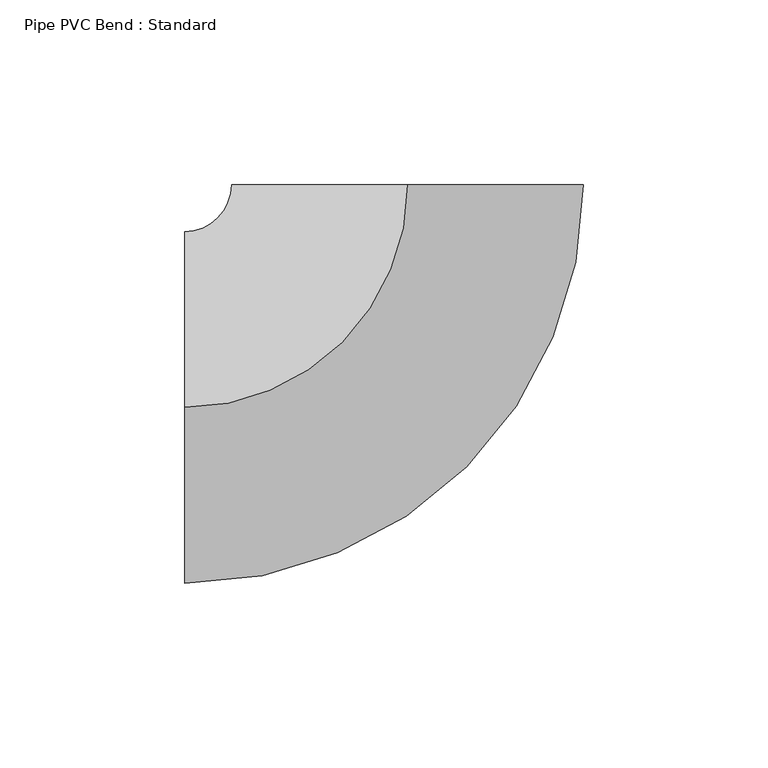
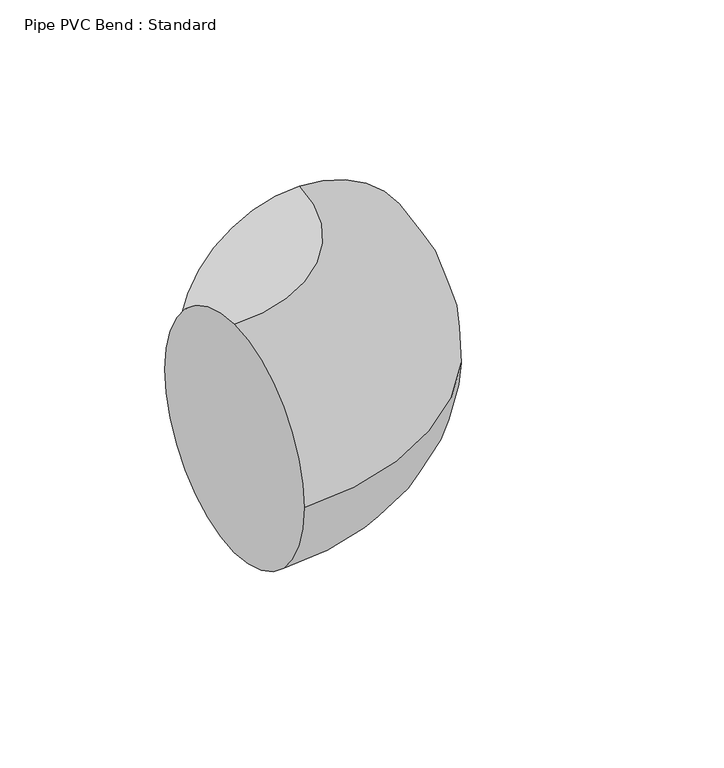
"""IFC4 building model written with IfcOpenShell, lengths in millimetres: pipe fitting geometry, Pipe PVC Bend : Standard."""

from ifc_helpers import new_model, si_unit, point, frame, origin, place, context, project, spatial, circle_curve, ellipse_curve, trimmed, source, transform, mapped, element, save
from ifc_brep_helpers import plane_surface, revolved_surface, advanced_brep


def pipe_pvc_bend_standard_aa0c8d42(model_context):
    return source(origin(), model_context, "Body", "AdvancedBrep", [
        advanced_brep(
        [(-60.3184481, 0.0, 47.625), (-60.3184481, 47.625, 0.0), (-60.3184481, 0.0, -47.625), (-60.3184481, -47.625, 0.0), (0.0065515, 60.3184477, 47.625), (47.6315513, 60.3132749, 0.0), (0.0065515, 60.3184477, -47.625), (-47.6184482, 60.3236206, 0.0)],
        [
            (0, 1, circle_curve(frame((-60.3184481, 0.0, 0.0), z_axis=(-1.0, 0.0, 0.0), x_axis=(0.0, 1.0, 0.0)), 47.625)),
            (1, 2, circle_curve(frame((-60.3184481, 0.0, 0.0), z_axis=(-1.0, 0.0, 0.0), x_axis=(0.0, 1.0, 0.0)), 47.625)),
            (2, 3, circle_curve(frame((-60.3184481, 0.0, 0.0), z_axis=(-1.0, 0.0, 0.0), x_axis=(0.0, 1.0, 0.0)), 47.625)),
            (3, 0, circle_curve(frame((-60.3184481, 0.0, 0.0), z_axis=(-1.0, 0.0, 0.0), x_axis=(0.0, 1.0, 0.0)), 47.625)),
            (4, 5, circle_curve(frame((0.0065515, 60.3184477, 0.0), z_axis=(0.00010861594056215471, 0.9999999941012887, 0.0), x_axis=(-0.9999999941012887, 0.00010861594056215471, 0.0)), 47.625)),
            (5, 6, circle_curve(frame((0.0065515, 60.3184477, 0.0), z_axis=(0.00010861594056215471, 0.9999999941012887, 0.0), x_axis=(-0.9999999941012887, 0.00010861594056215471, 0.0)), 47.625)),
            (6, 7, circle_curve(frame((0.0065515, 60.3184477, 0.0), z_axis=(0.00010861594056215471, 0.9999999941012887, 0.0), x_axis=(-0.9999999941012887, 0.00010861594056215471, 0.0)), 47.625)),
            (7, 4, circle_curve(frame((0.0065515, 60.3184477, 0.0), z_axis=(0.00010861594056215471, 0.9999999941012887, 0.0), x_axis=(-0.9999999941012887, 0.00010861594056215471, 0.0)), 47.625)),
            (7, 1, circle_curve(frame((-60.3184481, 60.325, 0.0), z_axis=(0.0, 0.0, -1.0), x_axis=(0.0, -1.0, 0.0)), 12.7)),
            (0, 4, circle_curve(frame((-60.3184481, 60.325, 47.625), z_axis=(0.0, 0.0, 1.0), x_axis=(0.0, -1.0, 0.0)), 60.325)),
            (6, 2, circle_curve(frame((-60.3184481, 60.325, -47.625), z_axis=(0.0, 0.0, -1.0), x_axis=(0.0, -1.0, 0.0)), 60.325)),
            (5, 3, circle_curve(frame((-60.3184481, 60.325, 0.0), z_axis=(0.0, 0.0, -1.0), x_axis=(0.0, -1.0, 0.0)), 107.95)),
        ],
        [
            plane_surface(frame((-60.3184481, 0.0, 0.0), z_axis=(-1.0, 0.0, 0.0), x_axis=(0.0, 0.0, 1.0))),
            plane_surface(frame((0.0065515, 60.3184477, 0.0), z_axis=(0.00010861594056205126, 0.9999999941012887, 0.0), x_axis=(0.0, 0.0, 1.0))),
            revolved_surface(trimmed(ellipse_curve(frame((-60.3184481, 0.0, 0.0), z_axis=(-1.0, 0.0, 0.0), x_axis=(0.0, 1.0, 0.0)), 47.625, 47.625), [point((-60.3184481, 0.0, 47.625))], [point((-60.3184481, 47.625, 0.0))], True, "CARTESIAN"), (-60.3184481, 60.325, 0.0), (0.0, 0.0, 1.0)),
            revolved_surface(trimmed(ellipse_curve(frame((-60.3184481, 0.0, 0.0), z_axis=(-1.0, 0.0, 0.0), x_axis=(0.0, 1.0, 0.0)), 47.625, 47.625), [point((-60.3184481, 47.625, 0.0))], [point((-60.3184481, 0.0, -47.625))], True, "CARTESIAN"), (-60.3184481, 60.325, 0.0), (0.0, 0.0, 1.0)),
            revolved_surface(trimmed(ellipse_curve(frame((-60.3184481, 0.0, 0.0), z_axis=(-1.0, 0.0, 0.0), x_axis=(0.0, 1.0, 0.0)), 47.625, 47.625), [point((-60.3184481, 0.0, -47.625))], [point((-60.3184481, -47.625, 0.0))], True, "CARTESIAN"), (-60.3184481, 60.325, 0.0), (0.0, 0.0, 1.0)),
            revolved_surface(trimmed(ellipse_curve(frame((-60.3184481, 0.0, 0.0), z_axis=(-1.0, 0.0, 0.0), x_axis=(0.0, 1.0, 0.0)), 47.625, 47.625), [point((-60.3184481, -47.625, 0.0))], [point((-60.3184481, 0.0, 47.625))], True, "CARTESIAN"), (-60.3184481, 60.325, 0.0), (0.0, 0.0, 1.0)),
        ],
        [
            (0, [[1, 2, 3, 4]]),
            (1, [[5, 6, 7, 8]]),
            (2, [[9, -1, 10, -8]]),
            (3, [[11, -2, -9, -7]]),
            (4, [[12, -3, -11, -6]]),
            (5, [[-10, -4, -12, -5]]),
        ],
    ),
        advanced_brep(
        [(-60.3184481, 0.0, 47.625), (-60.3184481, 47.625, 0.0), (-60.3184481, 0.0, -47.625), (-60.3184481, -47.625, 0.0), (0.0065515, 60.3184477, 47.625), (47.6315513, 60.3132749, 0.0), (0.0065515, 60.3184477, -47.625), (-47.6184482, 60.3236206, 0.0)],
        [
            (0, 1, circle_curve(frame((-60.3184481, 0.0, 0.0), z_axis=(-1.0, 0.0, 0.0), x_axis=(0.0, 1.0, 0.0)), 47.625)),
            (1, 2, circle_curve(frame((-60.3184481, 0.0, 0.0), z_axis=(-1.0, 0.0, 0.0), x_axis=(0.0, 1.0, 0.0)), 47.625)),
            (2, 3, circle_curve(frame((-60.3184481, 0.0, 0.0), z_axis=(-1.0, 0.0, 0.0), x_axis=(0.0, 1.0, 0.0)), 47.625)),
            (3, 0, circle_curve(frame((-60.3184481, 0.0, 0.0), z_axis=(-1.0, 0.0, 0.0), x_axis=(0.0, 1.0, 0.0)), 47.625)),
            (4, 5, circle_curve(frame((0.0065515, 60.3184477, 0.0), z_axis=(0.00010861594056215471, 0.9999999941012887, 0.0), x_axis=(-0.9999999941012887, 0.00010861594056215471, 0.0)), 47.625)),
            (5, 6, circle_curve(frame((0.0065515, 60.3184477, 0.0), z_axis=(0.00010861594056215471, 0.9999999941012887, 0.0), x_axis=(-0.9999999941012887, 0.00010861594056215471, 0.0)), 47.625)),
            (6, 7, circle_curve(frame((0.0065515, 60.3184477, 0.0), z_axis=(0.00010861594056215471, 0.9999999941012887, 0.0), x_axis=(-0.9999999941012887, 0.00010861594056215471, 0.0)), 47.625)),
            (7, 4, circle_curve(frame((0.0065515, 60.3184477, 0.0), z_axis=(0.00010861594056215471, 0.9999999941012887, 0.0), x_axis=(-0.9999999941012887, 0.00010861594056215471, 0.0)), 47.625)),
            (7, 1, circle_curve(frame((-60.3184481, 60.325, 0.0), z_axis=(0.0, 0.0, -1.0), x_axis=(0.0, -1.0, 0.0)), 12.7)),
            (0, 4, circle_curve(frame((-60.3184481, 60.325, 47.625), z_axis=(0.0, 0.0, 1.0), x_axis=(0.0, -1.0, 0.0)), 60.325)),
            (6, 2, circle_curve(frame((-60.3184481, 60.325, -47.625), z_axis=(0.0, 0.0, -1.0), x_axis=(0.0, -1.0, 0.0)), 60.325)),
            (5, 3, circle_curve(frame((-60.3184481, 60.325, 0.0), z_axis=(0.0, 0.0, -1.0), x_axis=(0.0, -1.0, 0.0)), 107.95)),
        ],
        [
            plane_surface(frame((-60.3184481, 0.0, 0.0), z_axis=(-1.0, 0.0, 0.0), x_axis=(0.0, 0.0, 1.0))),
            plane_surface(frame((0.0065515, 60.3184477, 0.0), z_axis=(0.00010861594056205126, 0.9999999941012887, 0.0), x_axis=(0.0, 0.0, 1.0))),
            revolved_surface(trimmed(ellipse_curve(frame((-60.3184481, 0.0, 0.0), z_axis=(-1.0, 0.0, 0.0), x_axis=(0.0, 1.0, 0.0)), 47.625, 47.625), [point((-60.3184481, 0.0, 47.625))], [point((-60.3184481, 47.625, 0.0))], True, "CARTESIAN"), (-60.3184481, 60.325, 0.0), (0.0, 0.0, 1.0)),
            revolved_surface(trimmed(ellipse_curve(frame((-60.3184481, 0.0, 0.0), z_axis=(-1.0, 0.0, 0.0), x_axis=(0.0, 1.0, 0.0)), 47.625, 47.625), [point((-60.3184481, 47.625, 0.0))], [point((-60.3184481, 0.0, -47.625))], True, "CARTESIAN"), (-60.3184481, 60.325, 0.0), (0.0, 0.0, 1.0)),
            revolved_surface(trimmed(ellipse_curve(frame((-60.3184481, 0.0, 0.0), z_axis=(-1.0, 0.0, 0.0), x_axis=(0.0, 1.0, 0.0)), 47.625, 47.625), [point((-60.3184481, 0.0, -47.625))], [point((-60.3184481, -47.625, 0.0))], True, "CARTESIAN"), (-60.3184481, 60.325, 0.0), (0.0, 0.0, 1.0)),
            revolved_surface(trimmed(ellipse_curve(frame((-60.3184481, 0.0, 0.0), z_axis=(-1.0, 0.0, 0.0), x_axis=(0.0, 1.0, 0.0)), 47.625, 47.625), [point((-60.3184481, -47.625, 0.0))], [point((-60.3184481, 0.0, 47.625))], True, "CARTESIAN"), (-60.3184481, 60.325, 0.0), (0.0, 0.0, 1.0)),
        ],
        [
            (0, [[1, 2, 3, 4]]),
            (1, [[5, 6, 7, 8]]),
            (2, [[9, -1, 10, -8]]),
            (3, [[11, -2, -9, -7]]),
            (4, [[12, -3, -11, -6]]),
            (5, [[-10, -4, -12, -5]]),
        ],
    ),
    ])


if __name__ == "__main__":
    model = new_model("IFC4")
    model_context = context("Model", 3, world=origin())
    ifc_project = project(units=[si_unit("LENGTHUNIT", "METRE", prefix="MILLI")], contexts=[model_context])
    site = spatial("IfcSite", under=ifc_project)
    building = spatial("IfcBuilding", under=site)
    placement = place(None, origin())
    pipe_pvc_bend_standard_shape = pipe_pvc_bend_standard_aa0c8d42(model_context)
    element("IfcPipeFitting", 1, ObjectType="Pipe PVC Bend : Standard", at=placement, inside=building, context=model_context, shape_type="MappedRepresentation", body=[
        mapped(pipe_pvc_bend_standard_shape, transform((0.0, 0.0, 0.0), x_axis=(1.0, 0.0, 0.0), y_axis=(0.0, 1.0, 0.0), z_axis=(0.0, 0.0, 1.0))),
    ])
    save(model, "model.ifc")
